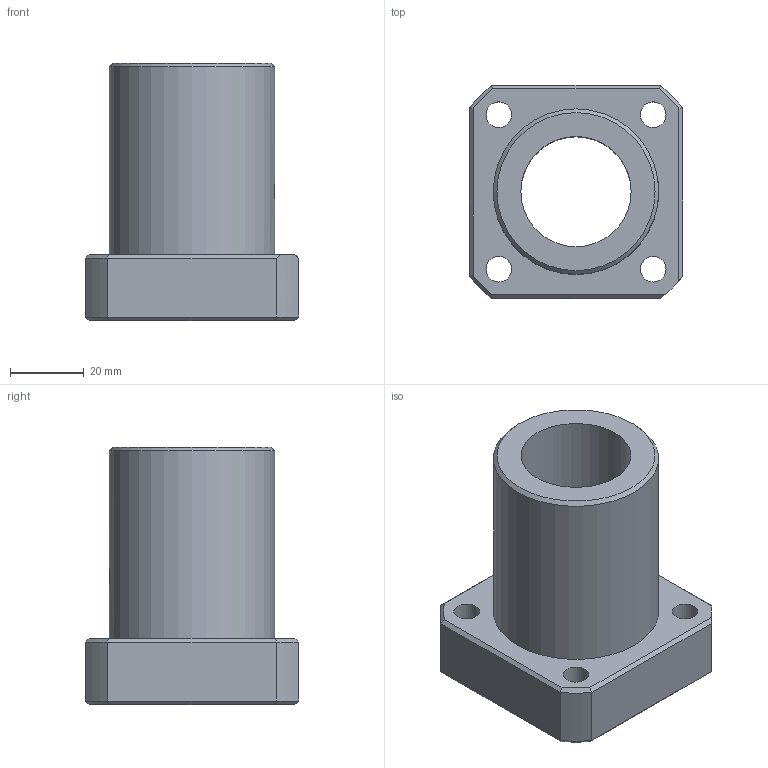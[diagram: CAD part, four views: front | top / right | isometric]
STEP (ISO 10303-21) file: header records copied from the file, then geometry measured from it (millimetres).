
FILE_DESCRIPTION((''),'2;1');
FILE_NAME('D:\製品 (図面)\カタログ用3D\シャフトブロック関連\STEP形式\SFW\SFW30.stp','2010-06-01T16:33:54',('Tsuchiya'),(''),'Autodesk Inventor 10','Autodesk Inventor 10','');
FILE_SCHEMA(('AUTOMOTIVE_DESIGN { 1 0 10303 214 1 1 1 1 }'));
Length unit declared in the file: millimetre
Products named in the file (1): SFW30
Bounding box: 58 x 58 x 70 mm (x, y, z)
Volume: 89419.7 mm3; surface area: 23991 mm2
Topology: 1 solids, 1 shells, 52 faces, 128 edges, 82 vertices
Faces by surface type: plane 29, cylinder 10, cone 9, bspline 4
Full cylindrical faces by diameter (mm): 7 x4, 30 x1, 45 x1
Entity records: 1623 total; most frequent: CARTESIAN_POINT 454, DIRECTION 224, ORIENTED_EDGE 222, EDGE_CURVE 111, AXIS2_PLACEMENT_3D 82, EDGE_LOOP 77, VERTEX_POINT 76, VECTOR 60
